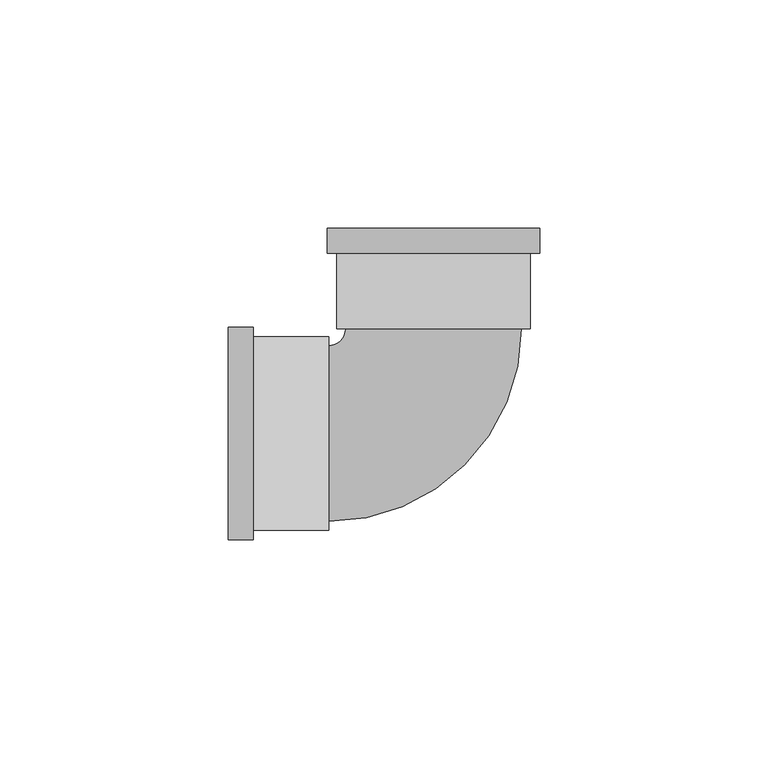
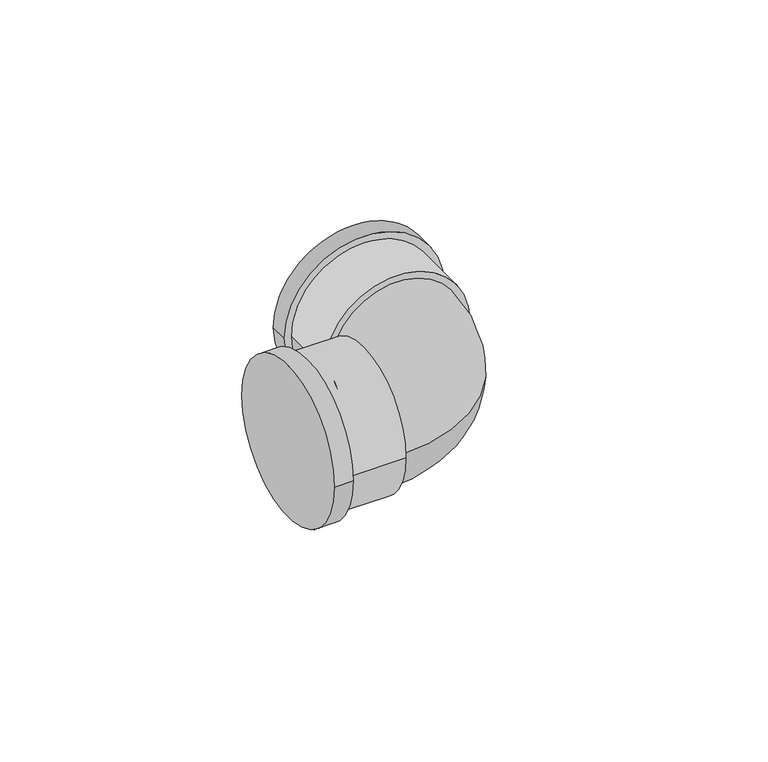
"""IFC4 building model written with IfcOpenShell, lengths in millimetres: pipe fitting geometry, Cotovelo - PVC - CW : Padrão."""

import ifcopenshell
import ifcopenshell.guid

model = None  # the IFC model being written
_history = None  # IfcOwnerHistory: only IFC2X3 demands one
_inside = {}  # id of a spatial element -> (the spatial element, [elements in it])
_under = {}  # id of a project, library or spatial element -> (it, [spatial elements below it])
_declared = {}  # id of a project -> (the project, [libraries it declares])
_typed = {}  # id of a type object -> (the type object, [elements of that type])
_made_of = {}  # id of a material, layer set ... -> (it, [elements and type objects made of it])


def new_model(schema):
    """Start an empty IFC model of exactly this schema.

    Asked for "IFC4X3", IfcOpenShell would pick the latest addendum, in which some entities
    have other attributes; the version numbers below select the first issue.
    IFC2X3 requires an IfcOwnerHistory on every rooted entity: one is made here for all.
    """
    global model, _history
    if schema == "IFC4X3":
        model = ifcopenshell.file(schema_version=(4, 3, 0, 0))
    else:
        model = ifcopenshell.file(schema=schema)
    _inside.clear()
    _under.clear()
    _declared.clear()
    _typed.clear()
    _made_of.clear()
    _history = None
    if model.schema == "IFC2X3":
        org = make("IfcOrganization", Name="unknown")
        user = make(
            "IfcPersonAndOrganization",
            ThePerson=make("IfcPerson", FamilyName="unknown"),
            TheOrganization=org,
        )
        app = make(
            "IfcApplication",
            ApplicationDeveloper=org,
            Version="unknown",
            ApplicationFullName="unknown",
            ApplicationIdentifier="unknown",
        )
        _history = make(
            "IfcOwnerHistory",
            OwningUser=user,
            OwningApplication=app,
            ChangeAction="ADDED",
            CreationDate=0,
        )
    return model


def make(cls, **values):
    """One entity of the class cls with the attributes given. An attribute that is None is left unset."""
    return model.create_entity(
        cls, **{name: value for name, value in values.items() if value is not None}
    )


def rooted(cls, **values):
    """An entity with a GlobalId (a new one), such as an element, a storey or a relation."""
    return make(cls, GlobalId=ifcopenshell.guid.new(), OwnerHistory=_history, **values)


def si_unit(unit_type, name, prefix=None):
    """IfcSIUnit, for example si_unit("LENGTHUNIT", "METRE", prefix="MILLI")."""
    return make("IfcSIUnit", UnitType=unit_type, Prefix=prefix, Name=name)


def assignment(units):
    """IfcUnitAssignment: the units of a project."""
    return None if units is None else make("IfcUnitAssignment", Units=units)


def point(xyz):
    """IfcCartesianPoint."""
    return None if xyz is None else make("IfcCartesianPoint", Coordinates=xyz)


def direction(xyz):
    """IfcDirection."""
    return None if xyz is None else make("IfcDirection", DirectionRatios=xyz)


def frame(location, z_axis=None, x_axis=None):
    """IfcAxis2Placement3D, a coordinate frame: its origin and axes. An axis left out is left unset."""
    return make(
        "IfcAxis2Placement3D",
        Location=point(location),
        Axis=direction(z_axis),
        RefDirection=direction(x_axis),
    )


def origin():
    """The frame at (0, 0, 0) with its axes left unset."""
    return frame((0.0, 0.0, 0.0))


def place(relative_to, where):
    """IfcLocalPlacement: puts the frame where relative to a parent placement (None: the world)."""
    return make(
        "IfcLocalPlacement", PlacementRelTo=relative_to, RelativePlacement=where
    )


def context(
    kind, dimensions, precision=None, world=None, true_north=None, identifier=None
):
    """IfcGeometricRepresentationContext, for example the 3D "Model" context."""
    return make(
        "IfcGeometricRepresentationContext",
        ContextIdentifier=identifier,
        ContextType=kind,
        CoordinateSpaceDimension=dimensions,
        Precision=precision,
        WorldCoordinateSystem=world,
        TrueNorth=true_north,
    )


def project(units=None, contexts=None):
    """IfcProject with its units and contexts."""
    return rooted(
        "IfcProject",
        Name="project",
        RepresentationContexts=contexts,
        UnitsInContext=assignment(units),
    )


def spatial(cls, under=None, at=None, **own):
    """A site, building, storey or space (cls), placed at a placement, below another one or the project."""
    s = rooted(cls, ObjectPlacement=at, **own)
    if under is not None:
        _under.setdefault(under.id(), (under, []))[1].append(s)
    return s


def circle_curve(where, radius):
    """IfcCircle in the frame where."""
    return make("IfcCircle", Position=where, Radius=radius)


def ellipse_curve(where, semi_axis1, semi_axis2):
    """IfcEllipse in the frame where."""
    return make(
        "IfcEllipse", Position=where, SemiAxis1=semi_axis1, SemiAxis2=semi_axis2
    )


def trimmed(basis, trim1, trim2, sense, master):
    """IfcTrimmedCurve: the piece of a basis curve between two trims."""
    return make(
        "IfcTrimmedCurve",
        BasisCurve=basis,
        Trim1=trim1,
        Trim2=trim2,
        SenseAgreement=sense,
        MasterRepresentation=master,
    )


def shape(context_of_items, identifier, shape_type, items):
    """IfcShapeRepresentation: the items that make up one representation, for example the "Body"."""
    return make(
        "IfcShapeRepresentation",
        ContextOfItems=context_of_items,
        RepresentationIdentifier=identifier,
        RepresentationType=shape_type,
        Items=items,
    )


def source(mapping_origin, context_of_items, identifier, shape_type, items):
    """IfcRepresentationMap: a shape defined once, which mapped items show again and again."""
    return make(
        "IfcRepresentationMap",
        MappingOrigin=mapping_origin,
        MappedRepresentation=shape(context_of_items, identifier, shape_type, items),
    )


def transform(
    local_origin,
    x_axis=None,
    y_axis=None,
    z_axis=None,
    scale=None,
    scale2=None,
    scale3=None,
    uniform=True,
):
    """IfcCartesianTransformationOperator3D, or its non-uniform kind. x_axis, y_axis, z_axis: its Axis1, 2, 3."""
    if uniform:
        return make(
            "IfcCartesianTransformationOperator3D",
            Axis1=direction(x_axis),
            Axis2=direction(y_axis),
            LocalOrigin=point(local_origin),
            Scale=scale,
            Axis3=direction(z_axis),
        )
    return make(
        "IfcCartesianTransformationOperator3DnonUniform",
        Axis1=direction(x_axis),
        Axis2=direction(y_axis),
        LocalOrigin=point(local_origin),
        Scale=scale,
        Axis3=direction(z_axis),
        Scale2=scale2,
        Scale3=scale3,
    )


def mapped(mapping_source, mapping_target):
    """IfcMappedItem: shows the shape of a source again, moved by a transform."""
    return make(
        "IfcMappedItem", MappingSource=mapping_source, MappingTarget=mapping_target
    )


def made_of(thing, what):
    """Note that an element or type object is made of a material, layer set ...; save() writes the relation."""
    if what is not None:
        _made_of.setdefault(what.id(), (what, []))[1].append(thing)
    return thing


def element(
    cls,
    number,
    at=None,
    inside=None,
    cuts=None,
    type_object=None,
    material=None,
    context=None,
    identifier="Body",
    shape_type=None,
    held_by="IfcProductDefinitionShape",
    body=None,
    shapes=None,
    **own,
):
    """One element of the class cls, such as IfcWall. Its Tag is "e" and its number.

    at: its placement. inside: the storey or other place that contains it. cuts: it is an
    opening in that element (IfcRelVoidsElement). A single representation is given by context,
    identifier, shape_type and body (its items); several are given by shapes. held_by: the class
    of the entity that holds the representations. save() writes the other relations.
    """
    e = rooted(cls, Tag="e%d" % number, ObjectPlacement=at, **own)
    if body is not None:
        shapes = [shape(context, identifier, shape_type, body)]
    if shapes is not None:
        e.Representation = make(held_by, Representations=shapes)
    if inside is not None:
        _inside.setdefault(inside.id(), (inside, []))[1].append(e)
    if cuts is not None:
        rooted(
            "IfcRelVoidsElement", RelatingBuildingElement=cuts, RelatedOpeningElement=e
        )
    if type_object is not None:
        _typed.setdefault(type_object.id(), (type_object, []))[1].append(e)
    return made_of(e, material)


def aggregate(whole, parts):
    """IfcRelAggregates: a whole, such as a stair, and the parts it consists of."""
    return rooted("IfcRelAggregates", RelatingObject=whole, RelatedObjects=parts)


def save(model, path):
    """Write the relations noted so far, then the file.

    IfcRelAggregates (storeys below a building ...), IfcRelContainedInSpatialStructure (elements
    in a storey), IfcRelDefinesByType, IfcRelAssociatesMaterial and IfcRelDeclares: one each for
    every whole, place, type object, material and project.
    """
    for whole, parts in _under.values():
        aggregate(whole, parts)
    for where, things in _inside.values():
        rooted(
            "IfcRelContainedInSpatialStructure",
            RelatedElements=things,
            RelatingStructure=where,
        )
    for kind, things in _typed.values():
        rooted("IfcRelDefinesByType", RelatedObjects=things, RelatingType=kind)
    for what, things in _made_of.values():
        rooted("IfcRelAssociatesMaterial", RelatedObjects=things, RelatingMaterial=what)
    for by, libraries in _declared.values():
        rooted("IfcRelDeclares", RelatingContext=by, RelatedDefinitions=libraries)
    model.write(path)


def plane_surface(at):
    """IfcPlane: the flat surface through the origin of the frame at, square to its z axis."""
    return make("IfcPlane", Position=at)


def cylinder_surface(at, radius):
    """IfcCylindricalSurface: all points at the distance radius from the z axis of the frame at."""
    return make("IfcCylindricalSurface", Position=at, Radius=radius)


def revolved_surface(curve, axis_point, axis_direction):
    """IfcSurfaceOfRevolution: the curve turned about the line through axis_point along axis_direction."""
    return make(
        "IfcSurfaceOfRevolution",
        SweptCurve=make("IfcArbitraryOpenProfileDef", ProfileType="CURVE", Curve=curve),
        AxisPosition=make("IfcAxis1Placement", Location=point(axis_point), Axis=direction(axis_direction)),
    )


def advanced_brep(points, edges, surfaces, faces):
    """IfcAdvancedBrep: a solid bounded by faces that lie on surfaces and meet in shared edges.

    An edge is (start, end): straight between two places in points (the first is 0);
    or (start, end, curve); or (start, end, curve, False) where it runs against its curve.
    A face is (place in surfaces, loops), or (place, loops, False) where it looks against
    its surface's normal. A loop lists edges by number (the first is 1), with a minus sign
    where the edge is run from its end to its start. The first loop is the outer one.
    """
    corners = [point(p) for p in points]
    vertices = [make("IfcVertexPoint", VertexGeometry=c) for c in corners]
    made = []
    for start, end, *more in edges:
        made.append(
            make(
                "IfcEdgeCurve",
                EdgeStart=vertices[start],
                EdgeEnd=vertices[end],
                EdgeGeometry=more[0] if more else make("IfcPolyline", Points=[corners[start], corners[end]]),
                SameSense=more[1] if len(more) > 1 else True,
            )
        )
    hull = []
    for where, loops, *sense in faces:
        bounds = []
        for j, loop in enumerate(loops):
            ring = [make("IfcOrientedEdge", EdgeElement=made[abs(k) - 1], Orientation=k > 0) for k in loop]
            bounds.append(
                make(
                    "IfcFaceOuterBound" if j == 0 else "IfcFaceBound",
                    Bound=make("IfcEdgeLoop", EdgeList=ring),
                    Orientation=True,
                )
            )
        hull.append(make("IfcAdvancedFace", Bounds=bounds, FaceSurface=surfaces[where], SameSense=sense[0] if sense else True))
    return make("IfcAdvancedBrep", Outer=make("IfcClosedShell", CfsFaces=hull))


def pipe_fitting_bac944c5(model_context):
    return source(origin(), model_context, "Body", "AdvancedBrep", [
        advanced_brep(
        [(-45.0004893, -23.2925, 0.0), (-45.0004893, 23.2925, 0.0), (-39.5004893, -23.2925, 0.0), (-39.5004893, 23.2925, 0.0), (-39.5004893, -21.175, 0.0), (-39.5004893, 21.175, 0.0), (-23.0004893, 21.175, 0.0), (-23.0004893, -21.175, 0.0), (-23.0004893, -19.25, 0.0), (-23.0004893, 19.25, 0.0), (-19.2504893, 23.0000798, 0.0), (19.2495107, 23.0008989, 0.0), (21.1745107, 23.0009398, 0.0), (-21.1754893, 23.0000388, 0.0), (-23.2934574, 44.9999938, 0.0), (23.2915426, 45.0009849, 0.0), (21.1741596, 39.5009398, 0.0), (-21.1758404, 39.5000388, 0.0), (-23.2933404, 39.4999938, 0.0), (23.2916596, 39.5009849, 0.0)],
        [
            (0, 1, circle_curve(frame((-45.0004893, 0.0, 0.0), z_axis=(-1.0, 0.0, 0.0), x_axis=(0.0, 1.0, 0.0)), 23.2925)),
            (1, 0, circle_curve(frame((-45.0004893, 0.0, 0.0), z_axis=(-1.0, 0.0, 0.0), x_axis=(0.0, 1.0, 0.0)), 23.2925)),
            (2, 3, circle_curve(frame((-39.5004893, 0.0, 0.0), z_axis=(1.0, 0.0, 0.0), x_axis=(0.0, 1.0, 0.0)), 23.2925)),
            (3, 2, circle_curve(frame((-39.5004893, 0.0, 0.0), z_axis=(1.0, 0.0, 0.0), x_axis=(0.0, 1.0, 0.0)), 23.2925)),
            (4, 5, circle_curve(frame((-39.5004893, 0.0, 0.0), z_axis=(-1.0, 0.0, 0.0), x_axis=(0.0, -1.0, 0.0)), 21.175)),
            (5, 4, circle_curve(frame((-39.5004893, 0.0, 0.0), z_axis=(-1.0, 0.0, 0.0), x_axis=(0.0, -1.0, 0.0)), 21.175)),
            (0, 2),
            (3, 1),
            (6, 7, circle_curve(frame((-23.0004893, 0.0, 0.0), z_axis=(1.0, 0.0, 0.0), x_axis=(0.0, -1.0, 0.0)), 21.175)),
            (7, 6, circle_curve(frame((-23.0004893, 0.0, 0.0), z_axis=(1.0, 0.0, 0.0), x_axis=(0.0, -1.0, 0.0)), 21.175)),
            (8, 9, circle_curve(frame((-23.0004893, 0.0, 0.0), z_axis=(-1.0, 0.0, 0.0), x_axis=(0.0, 1.0, 0.0)), 19.25)),
            (9, 8, circle_curve(frame((-23.0004893, 0.0, 0.0), z_axis=(-1.0, 0.0, 0.0), x_axis=(0.0, 1.0, 0.0)), 19.25)),
            (6, 5),
            (4, 7),
            (10, 9, circle_curve(frame((-23.0004893, 23.0, 0.0), z_axis=(0.0, 0.0, -1.0), x_axis=(0.0, -1.0, 0.0)), 3.75)),
            (8, 11, circle_curve(frame((-23.0004893, 23.0, 0.0), z_axis=(0.0, 0.0, 1.0), x_axis=(0.0, -1.0, 0.0)), 42.25)),
            (11, 10, circle_curve(frame((-0.0004893, 23.0004893, 0.0), z_axis=(2.1275133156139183e-05, -0.9999999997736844, 0.0), x_axis=(-0.9999999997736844, -2.1275133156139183e-05, 0.0)), 19.25)),
            (10, 11, circle_curve(frame((-0.0004893, 23.0004893, 0.0), z_axis=(2.1275133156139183e-05, -0.9999999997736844, 0.0), x_axis=(-0.9999999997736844, -2.1275133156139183e-05, 0.0)), 19.25)),
            (12, 13, circle_curve(frame((-0.0004893, 23.0004893, 0.0), z_axis=(2.1275133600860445e-05, -0.9999999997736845, 0.0), x_axis=(-0.9999999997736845, -2.1275133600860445e-05, 0.0)), 21.175)),
            (13, 12, circle_curve(frame((-0.0004893, 23.0004893, 0.0), z_axis=(2.1275133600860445e-05, -0.9999999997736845, 0.0), x_axis=(-0.9999999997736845, -2.1275133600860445e-05, 0.0)), 21.175)),
            (14, 15, circle_curve(frame((-0.0009574, 45.0004893, 0.0), z_axis=(-2.1275133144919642e-05, 0.9999999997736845, 0.0), x_axis=(0.9999999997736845, 2.1275133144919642e-05, 0.0)), 23.2925)),
            (15, 14, circle_curve(frame((-0.0009574, 45.0004893, 0.0), z_axis=(-2.1275133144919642e-05, 0.9999999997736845, 0.0), x_axis=(0.9999999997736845, 2.1275133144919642e-05, 0.0)), 23.2925)),
            (12, 16),
            (16, 17, circle_curve(frame((-0.0008404, 39.5004893, 0.0), z_axis=(2.1275133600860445e-05, -0.9999999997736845, 0.0), x_axis=(-0.9999999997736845, -2.1275133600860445e-05, 0.0)), 21.175)),
            (17, 13),
            (17, 16, circle_curve(frame((-0.0008404, 39.5004893, 0.0), z_axis=(2.1275133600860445e-05, -0.9999999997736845, 0.0), x_axis=(-0.9999999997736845, -2.1275133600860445e-05, 0.0)), 21.175)),
            (18, 19, circle_curve(frame((-0.0008404, 39.5004893, 0.0), z_axis=(2.1275133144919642e-05, -0.9999999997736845, 0.0), x_axis=(0.9999999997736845, 2.1275133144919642e-05, 0.0)), 23.2925)),
            (19, 18, circle_curve(frame((-0.0008404, 39.5004893, 0.0), z_axis=(2.1275133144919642e-05, -0.9999999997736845, 0.0), x_axis=(0.9999999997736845, 2.1275133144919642e-05, 0.0)), 23.2925)),
            (14, 18),
            (19, 15),
        ],
        [
            plane_surface(frame((-45.0004893, 0.0, 0.0), z_axis=(-1.0, 0.0, 0.0), x_axis=(0.0, 0.0, 1.0))),
            plane_surface(frame((-39.5004893, 0.0, 0.0), z_axis=(1.0, 0.0, 0.0), x_axis=(0.0, 0.0, 1.0))),
            cylinder_surface(frame((-45.0004893, 0.0, 0.0), z_axis=(-1.0, 0.0, 0.0), x_axis=(0.0, 1.0, 0.0)), 23.2925),
            plane_surface(frame((-23.0004893, 0.0, 0.0), z_axis=(1.0, 0.0, 0.0), x_axis=(0.0, 0.0, 1.0))),
            cylinder_surface(frame((-23.0004893, 0.0, 0.0), z_axis=(1.0, 0.0, 0.0), x_axis=(0.0, -1.0, 0.0)), 21.175),
            revolved_surface(trimmed(ellipse_curve(frame((-23.0004893, 0.0, 0.0), z_axis=(-1.0, 0.0, 0.0), x_axis=(0.0, 1.0, 0.0)), 19.25, 19.25), [point((-23.0004893, -19.25, 0.0))], [point((-23.0004893, 19.25, 0.0))], True, "CARTESIAN"), (-23.0004893, 23.0, 0.0), (0.0, 0.0, 1.0)),
            revolved_surface(trimmed(ellipse_curve(frame((-23.0004893, 0.0, 0.0), z_axis=(-1.0, 0.0, 0.0), x_axis=(0.0, 1.0, 0.0)), 19.25, 19.25), [point((-23.0004893, 19.25, 0.0))], [point((-23.0004893, -19.25, 0.0))], True, "CARTESIAN"), (-23.0004893, 23.0, 0.0), (0.0, 0.0, 1.0)),
            plane_surface(frame((-0.0004893, 23.0004893, 0.0), z_axis=(2.1275133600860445e-05, -0.9999999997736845, 0.0), x_axis=(0.0, 0.0, 1.0))),
            plane_surface(frame((-0.0009574, 45.0004893, 0.0), z_axis=(-2.1275133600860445e-05, 0.9999999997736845, 0.0), x_axis=(0.0, 0.0, 1.0))),
            cylinder_surface(frame((-0.0004893, 23.0004893, 0.0), z_axis=(2.1275133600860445e-05, -0.9999999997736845, 0.0), x_axis=(-0.9999999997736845, -2.1275133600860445e-05, 0.0)), 21.175),
            plane_surface(frame((-0.0008404, 39.5004893, 0.0), z_axis=(2.1275133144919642e-05, -0.9999999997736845, 0.0), x_axis=(0.0, 0.0, 1.0))),
            cylinder_surface(frame((-0.0009574, 45.0004893, 0.0), z_axis=(-2.1275133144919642e-05, 0.9999999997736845, 0.0), x_axis=(0.9999999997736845, 2.1275133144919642e-05, 0.0)), 23.2925),
        ],
        [
            (0, [[1, 2]]),
            (1, [[3, 4], [5, 6]]),
            (2, [[-1, 7, -4, 8]]),
            (2, [[-2, -8, -3, -7]]),
            (3, [[9, 10], [11, 12]]),
            (4, [[-9, 13, -5, 14]]),
            (4, [[-10, -14, -6, -13]]),
            (5, [[15, -11, 16, 17]]),
            (6, [[-15, 18, -16, -12]]),
            (7, [[19, 20], [-17, -18]]),
            (8, [[21, 22]]),
            (9, [[-19, 23, 24, 25]]),
            (9, [[-20, -25, 26, -23]]),
            (10, [[27, 28], [-24, -26]]),
            (11, [[-21, 29, -28, 30]]),
            (11, [[-22, -30, -27, -29]]),
        ],
    ),
    ])


if __name__ == "__main__":
    model = new_model("IFC4")
    model_context = context("Model", 3, world=origin())
    ifc_project = project(units=[si_unit("LENGTHUNIT", "METRE", prefix="MILLI")], contexts=[model_context])
    site = spatial("IfcSite", under=ifc_project)
    building = spatial("IfcBuilding", under=site)
    placement = place(None, origin())
    pipe_fitting_shape = pipe_fitting_bac944c5(model_context)
    element("IfcPipeFitting", 1, ObjectType="Cotovelo - PVC - CW : Padrão", at=placement, inside=building, context=model_context, shape_type="MappedRepresentation", body=[
        mapped(pipe_fitting_shape, transform((0.0, 0.0, 0.0), x_axis=(1.0, 0.0, 0.0), y_axis=(0.0, 1.0, 0.0), z_axis=(0.0, 0.0, 1.0))),
    ])
    save(model, "model.ifc")
